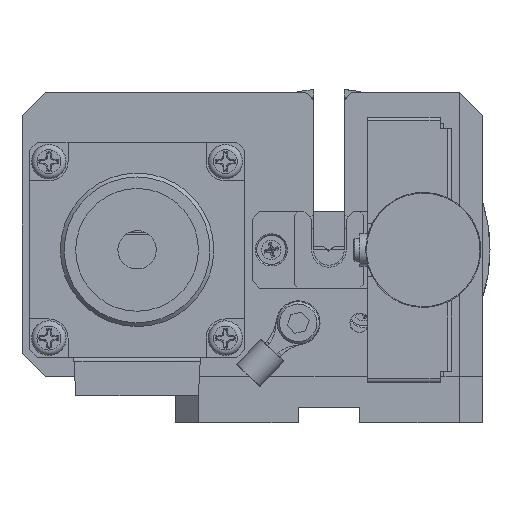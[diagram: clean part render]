
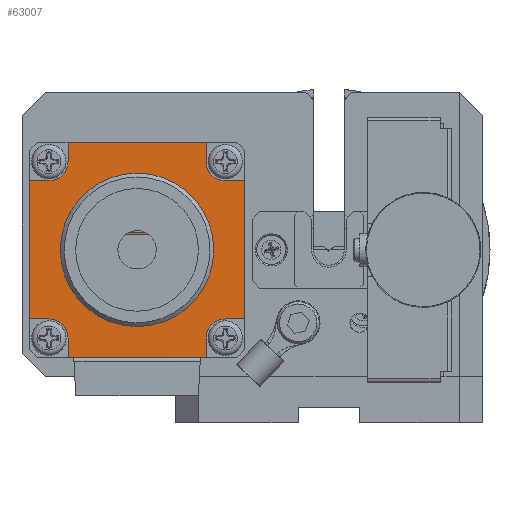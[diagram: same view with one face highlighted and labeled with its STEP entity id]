
A CAD part, left-side view. The second image highlights one B-rep face of the part: STEP entity #63007.
In plain terms, the highlighted planar face has unit normal (-1, 0, 0).
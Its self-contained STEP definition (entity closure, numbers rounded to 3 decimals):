
#4689=FACE_BOUND('',#10349,.T.);
#6708=FACE_OUTER_BOUND('',#10348,.T.);
#10348=EDGE_LOOP('',(#44214,#44215,#44216,#44217,#44218,#44219,#44220,#44221,
#44222,#44223,#44224,#44225,#44226,#44227,#44228,#44229));
#10349=EDGE_LOOP('',(#44230,#44231));
#14429=LINE('',#92406,#19395);
#14433=LINE('',#92418,#19399);
#14440=LINE('',#92435,#19406);
#14444=LINE('',#92447,#19410);
#14451=LINE('',#92464,#19417);
#14455=LINE('',#92476,#19421);
#14463=LINE('',#92493,#19429);
#14465=LINE('',#92497,#19431);
#14466=LINE('',#92501,#19432);
#14467=LINE('',#92502,#19433);
#14468=LINE('',#92503,#19434);
#14469=LINE('',#92504,#19435);
#14470=LINE('',#92508,#19436);
#19395=VECTOR('',#74590,10.);
#19399=VECTOR('',#74602,10.);
#19406=VECTOR('',#74615,10.);
#19410=VECTOR('',#74627,10.);
#19417=VECTOR('',#74640,10.);
#19421=VECTOR('',#74652,10.);
#19429=VECTOR('',#74666,10.);
#19431=VECTOR('',#74670,10.);
#19432=VECTOR('',#74673,10.);
#19433=VECTOR('',#74674,10.);
#19434=VECTOR('',#74675,10.);
#19435=VECTOR('',#74676,10.);
#19436=VECTOR('',#74679,10.);
#23917=CIRCLE('',#67001,2.5);
#23920=CIRCLE('',#67008,2.5);
#23923=CIRCLE('',#67015,2.5);
#23925=CIRCLE('',#67021,2.5);
#23926=CIRCLE('',#67022,2.5);
#27291=VERTEX_POINT('',#92403);
#27292=VERTEX_POINT('',#92405);
#27294=VERTEX_POINT('',#92411);
#27296=VERTEX_POINT('',#92417);
#27302=VERTEX_POINT('',#92432);
#27303=VERTEX_POINT('',#92434);
#27305=VERTEX_POINT('',#92440);
#27307=VERTEX_POINT('',#92446);
#27313=VERTEX_POINT('',#92461);
#27314=VERTEX_POINT('',#92463);
#27316=VERTEX_POINT('',#92469);
#27318=VERTEX_POINT('',#92475);
#27324=VERTEX_POINT('',#92491);
#27325=VERTEX_POINT('',#92496);
#27326=VERTEX_POINT('',#92498);
#27327=VERTEX_POINT('',#92500);
#27328=VERTEX_POINT('',#92505);
#27329=VERTEX_POINT('',#92506);
#33774=EDGE_CURVE('',#27292,#27291,#14429,.T.);
#33777=EDGE_CURVE('',#27294,#27292,#23917,.T.);
#33780=EDGE_CURVE('',#27296,#27294,#14433,.T.);
#33788=EDGE_CURVE('',#27303,#27302,#14440,.T.);
#33791=EDGE_CURVE('',#27305,#27303,#23920,.T.);
#33794=EDGE_CURVE('',#27307,#27305,#14444,.T.);
#33802=EDGE_CURVE('',#27314,#27313,#14451,.T.);
#33805=EDGE_CURVE('',#27316,#27314,#23923,.T.);
#33808=EDGE_CURVE('',#27318,#27316,#14455,.T.);
#33817=EDGE_CURVE('',#27324,#27291,#14463,.T.);
#33819=EDGE_CURVE('',#27324,#27325,#14465,.T.);
#33820=EDGE_CURVE('',#27325,#27326,#23925,.T.);
#33821=EDGE_CURVE('',#27326,#27327,#14466,.T.);
#33822=EDGE_CURVE('',#27318,#27327,#14467,.T.);
#33823=EDGE_CURVE('',#27307,#27313,#14468,.T.);
#33824=EDGE_CURVE('',#27296,#27302,#14469,.T.);
#33825=EDGE_CURVE('',#27328,#27329,#23926,.T.);
#33826=EDGE_CURVE('',#27328,#27329,#14470,.T.);
#44214=ORIENTED_EDGE('',*,*,#33780,.T.);
#44215=ORIENTED_EDGE('',*,*,#33777,.T.);
#44216=ORIENTED_EDGE('',*,*,#33774,.T.);
#44217=ORIENTED_EDGE('',*,*,#33817,.F.);
#44218=ORIENTED_EDGE('',*,*,#33819,.T.);
#44219=ORIENTED_EDGE('',*,*,#33820,.T.);
#44220=ORIENTED_EDGE('',*,*,#33821,.T.);
#44221=ORIENTED_EDGE('',*,*,#33822,.F.);
#44222=ORIENTED_EDGE('',*,*,#33808,.T.);
#44223=ORIENTED_EDGE('',*,*,#33805,.T.);
#44224=ORIENTED_EDGE('',*,*,#33802,.T.);
#44225=ORIENTED_EDGE('',*,*,#33823,.F.);
#44226=ORIENTED_EDGE('',*,*,#33794,.T.);
#44227=ORIENTED_EDGE('',*,*,#33791,.T.);
#44228=ORIENTED_EDGE('',*,*,#33788,.T.);
#44229=ORIENTED_EDGE('',*,*,#33824,.F.);
#44230=ORIENTED_EDGE('',*,*,#33825,.T.);
#44231=ORIENTED_EDGE('',*,*,#33826,.F.);
#61397=PLANE('',#67020);
#63007=ADVANCED_FACE('',(#6708,#4689),#61397,.T.);
#67001=AXIS2_PLACEMENT_3D('',#92412,#74596,#74597);
#67008=AXIS2_PLACEMENT_3D('',#92441,#74621,#74622);
#67015=AXIS2_PLACEMENT_3D('',#92470,#74646,#74647);
#67020=AXIS2_PLACEMENT_3D('',#92495,#74668,#74669);
#67021=AXIS2_PLACEMENT_3D('',#92499,#74671,#74672);
#67022=AXIS2_PLACEMENT_3D('',#92507,#74677,#74678);
#74590=DIRECTION('',(0.,0.,1.));
#74596=DIRECTION('center_axis',(1.,0.,0.));
#74597=DIRECTION('ref_axis',(0.,-1.,0.));
#74602=DIRECTION('',(0.,1.,0.));
#74615=DIRECTION('',(0.,-1.,0.));
#74621=DIRECTION('center_axis',(1.,0.,0.));
#74622=DIRECTION('ref_axis',(0.,0.,
-1.));
#74627=DIRECTION('',(0.,0.,1.));
#74640=DIRECTION('',(0.,0.,-1.));
#74646=DIRECTION('center_axis',(1.,0.,0.));
#74647=DIRECTION('ref_axis',(0.,1.,0.));
#74652=DIRECTION('',(0.,-1.,0.));
#74666=DIRECTION('',(0.,-1.,0.));
#74668=DIRECTION('center_axis',(-1.,0.,0.));
#74669=DIRECTION('ref_axis',(0.,0.,
1.));
#74670=DIRECTION('',(0.,0.,-1.));
#74671=DIRECTION('center_axis',(1.,0.,0.));
#74672=DIRECTION('ref_axis',(0.,0.,
1.));
#74673=DIRECTION('',(0.,1.,0.));
#74674=DIRECTION('',(0.,0.,1.));
#74675=DIRECTION('',(0.,1.,0.));
#74676=DIRECTION('',(0.,0.,-1.));
#74677=DIRECTION('center_axis',(1.,0.,0.));
#74678=DIRECTION('ref_axis',(0.,0.,
-1.));
#74679=DIRECTION('',(0.,1.,0.));
#92403=CARTESIAN_POINT('',(-32.,16.,36.5));
#92405=CARTESIAN_POINT('',(-32.,16.,34.));
#92406=CARTESIAN_POINT('',(-32.,16.,29.5));
#92411=CARTESIAN_POINT('',(-32.,13.5,31.5));
#92412=CARTESIAN_POINT('Origin',(-32.,13.5,34.));
#92417=CARTESIAN_POINT('',(-32.,11.,31.5));
#92418=CARTESIAN_POINT('',(-32.,19.25,31.5));
#92432=CARTESIAN_POINT('',(-32.,11.,13.5));
#92434=CARTESIAN_POINT('',(-32.,13.5,13.5));
#92435=CARTESIAN_POINT('',(-32.,18.,13.5));
#92440=CARTESIAN_POINT('',(-32.,16.,11.));
#92441=CARTESIAN_POINT('Origin',(-32.,13.5,11.));
#92446=CARTESIAN_POINT('',(-32.,16.,8.5));
#92447=CARTESIAN_POINT('',(-32.,16.,16.75));
#92461=CARTESIAN_POINT('',(-32.,34.,8.5));
#92463=CARTESIAN_POINT('',(-32.,34.,11.));
#92464=CARTESIAN_POINT('',(-32.,34.,15.5));
#92469=CARTESIAN_POINT('',(-32.,36.5,13.5));
#92470=CARTESIAN_POINT('Origin',(-32.,36.5,11.));
#92475=CARTESIAN_POINT('',(-32.,39.,13.5));
#92476=CARTESIAN_POINT('',(-32.,30.75,13.5));
#92491=CARTESIAN_POINT('',(-32.,34.,36.5));
#92493=CARTESIAN_POINT('',(-32.,39.,36.5));
#92495=CARTESIAN_POINT('Origin',(-32.,25.,22.5));
#92496=CARTESIAN_POINT('',(-32.,34.,34.));
#92497=CARTESIAN_POINT('',(-32.,34.,28.25));
#92498=CARTESIAN_POINT('',(-32.,36.5,31.5));
#92499=CARTESIAN_POINT('Origin',(-32.,36.5,34.));
#92500=CARTESIAN_POINT('',(-32.,39.,31.5));
#92501=CARTESIAN_POINT('',(-32.,32.,31.5));
#92502=CARTESIAN_POINT('',(-32.,39.,8.5));
#92503=CARTESIAN_POINT('',(-32.,11.,8.5));
#92504=CARTESIAN_POINT('',(-32.,11.,36.5));
#92505=CARTESIAN_POINT('',(-32.,23.5,24.5));
#92506=CARTESIAN_POINT('',(-32.,26.5,24.5));
#92507=CARTESIAN_POINT('Origin',(-32.,25.,22.5));
#92508=CARTESIAN_POINT('',(-32.,25.75,24.5));
